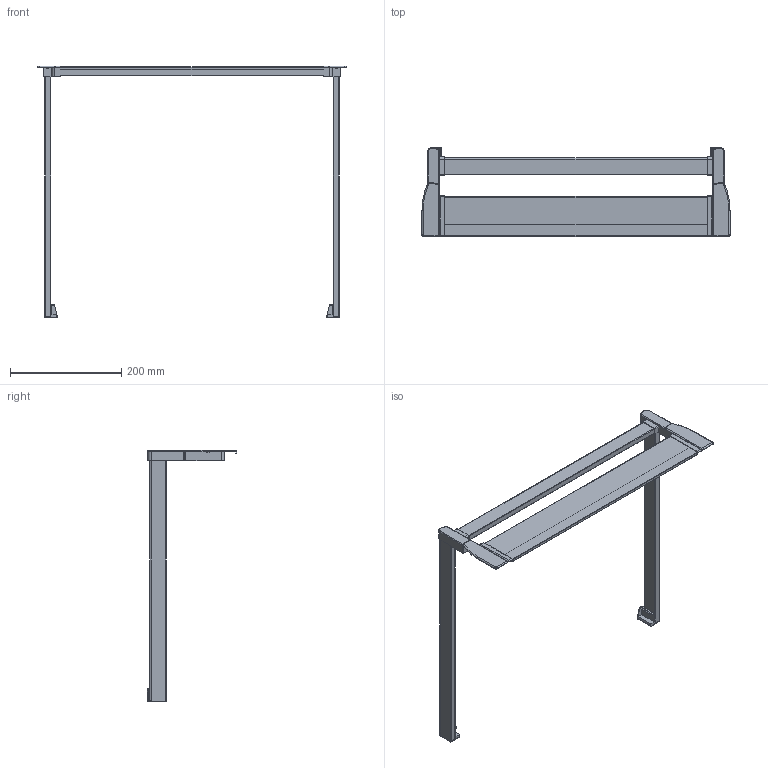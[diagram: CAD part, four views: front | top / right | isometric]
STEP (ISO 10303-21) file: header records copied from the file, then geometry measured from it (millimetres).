
FILE_DESCRIPTION (( 'STEP AP214' ), '1' );
FILE_NAME ('1_P620_NL 450_KAB 600_19er KS_.step', '2009-09-16T06:29:38', ( 'Waldinger Reinhard' ), ( 'Grass GmbH' ), 'SwSTEP 2.0', 'SolidWorks 2009', '' );
FILE_SCHEMA (( 'AUTOMOTIVE_DESIGN' ));
Length unit declared in the file: millimetre
Products named in the file (1): 1_P620_NL 450_KAB 600_19er KS_
Bounding box: 553.6 x 160.5 x 452.8 mm (x, y, z)
Volume: 948666 mm3; surface area: 225311.3 mm2
Topology: 1 solids, 1 shells, 220 faces, 578 edges, 364 vertices
Faces by surface type: plane 97, cylinder 91, torus 28, sphere 2, bspline 2
Entity records: 7004 total; most frequent: CARTESIAN_POINT 1345, DIRECTION 1198, ORIENTED_EDGE 1152, EDGE_CURVE 576, AXIS2_PLACEMENT_3D 433, VERTEX_POINT 364, VECTOR 332, LINE 332
